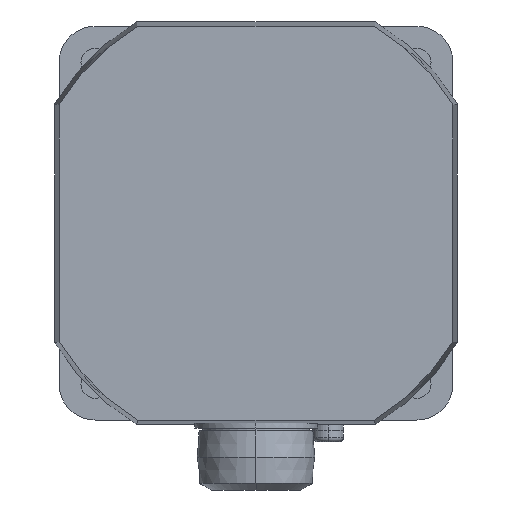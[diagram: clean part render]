
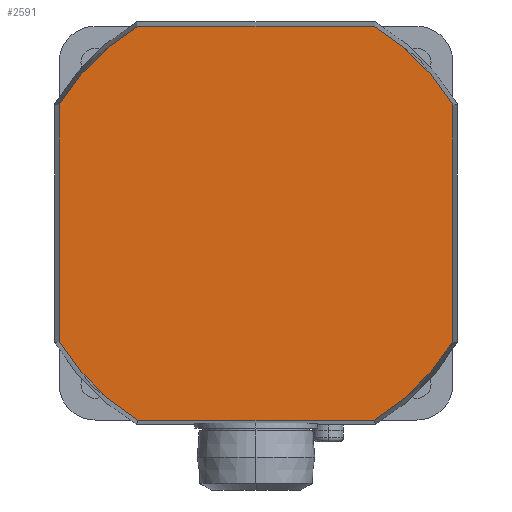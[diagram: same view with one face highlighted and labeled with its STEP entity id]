
A CAD part, left-side view. The second image highlights one B-rep face of the part: STEP entity #2591.
In plain terms, the highlighted planar face has unit normal (-1, 0, 0).
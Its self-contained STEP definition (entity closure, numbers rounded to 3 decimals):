
#2397=CARTESIAN_POINT('POINT35648',(-229.,-45.,
   9.042));
#2398=VERTEX_POINT('VERTEX35648',#2397);
#2407=CARTESIAN_POINT('POINT35650',(-229.,-45.,
   -45.042));
#2408=VERTEX_POINT('VERTEX35650',#2407);
#2409=CARTESIAN_POINT('POS58569',(-229.,-45.,
   -6.875));
#2410=DIRECTION('DIR88663',(0.,0.,1.));
#2411=VECTOR('VEC28475',#2410,1.);
#2412=LINE('STRAIGHT28475',#2409,#2411);
#2413=EDGE_CURVE('EDGE54265',#2408,#2398,#2412,.T.);
#2439=CARTESIAN_POINT('POINT35653',(-229.,-27.042,
   27.));
#2440=VERTEX_POINT('VERTEX35653',#2439);
#2447=CARTESIAN_POINT('POS58572',(-229.,0.,
   -18.));
#2448=DIRECTION('DIR88667',(1.,0.,0.));
#2449=DIRECTION('DIR88668',(0.,0.,-1.));
#2450=AXIS2_PLACEMENT_3D('AXIS30096',#2447,#2448,#2449);
#2451=CIRCLE('ELLIPSE13574',#2450,52.5);
#2452=EDGE_CURVE('EDGE54269',#2440,#2398,#2451,.T.);
#2470=CARTESIAN_POINT('POINT35654',(-229.,27.042,
   27.));
#2471=VERTEX_POINT('VERTEX35654',#2470);
#2480=CARTESIAN_POINT('POS58575',(-229.,0.,
   27.));
#2481=DIRECTION('DIR88673',(0.,1.,0.));
#2482=VECTOR('VEC28477',#2481,1.);
#2483=LINE('STRAIGHT28477',#2480,#2482);
#2484=EDGE_CURVE('EDGE54272',#2440,#2471,#2483,.T.);
#2503=CARTESIAN_POINT('POINT35657',(-229.,45.,
   9.042));
#2504=VERTEX_POINT('VERTEX35657',#2503);
#2511=EDGE_CURVE('EDGE54275',#2504,#2471,#2451,.T.);
#2519=CARTESIAN_POINT('POINT35658',(-229.,45.,
   -45.042));
#2520=VERTEX_POINT('VERTEX35658',#2519);
#2529=CARTESIAN_POINT('POS58578',(-229.,45.,
   -6.875));
#2530=DIRECTION('DIR88677',(0.,0.,-1.));
#2531=VECTOR('VEC28479',#2530,1.);
#2532=LINE('STRAIGHT28479',#2529,#2531);
#2533=EDGE_CURVE('EDGE54278',#2504,#2520,#2532,.T.);
#2555=CARTESIAN_POINT('POINT35661',(-229.,27.042,
   -63.));
#2556=VERTEX_POINT('VERTEX35661',#2555);
#2563=EDGE_CURVE('EDGE54282',#2556,#2520,#2451,.T.);
#2568=ORIENTED_EDGE('COEDGE108546',*,*,#2533,.T.);
#2569=ORIENTED_EDGE('COEDGE108547',*,*,#2563,.F.);
#2570=CARTESIAN_POINT('POINT35662',(-229.,-27.042,
   -63.));
#2571=VERTEX_POINT('VERTEX35662',#2570);
#2572=CARTESIAN_POINT('POS58581',(-229.,0.,
   -63.));
#2573=DIRECTION('DIR88681',(0.,-1.,0.));
#2574=VECTOR('VEC28481',#2573,1.);
#2575=LINE('STRAIGHT28481',#2572,#2574);
#2576=EDGE_CURVE('EDGE54283',#2556,#2571,#2575,.T.);
#2577=ORIENTED_EDGE('COEDGE108548',*,*,#2576,.T.);
#2578=EDGE_CURVE('EDGE54284',#2408,#2571,#2451,.T.);
#2579=ORIENTED_EDGE('COEDGE108549',*,*,#2578,.F.);
#2580=ORIENTED_EDGE('COEDGE108550',*,*,#2413,.T.);
#2581=ORIENTED_EDGE('COEDGE108551',*,*,#2452,.F.);
#2582=ORIENTED_EDGE('COEDGE108552',*,*,#2484,.T.);
#2583=ORIENTED_EDGE('COEDGE108553',*,*,#2511,.F.);
#2584=EDGE_LOOP('NONE',(#2568,#2569,#2577,#2579,#2580,#2581,#2582,#2583)
   );
#2585=FACE_BOUND('LOOP1',#2584,.T.);
#2586=CARTESIAN_POINT('POS58582',(-229.,0.,
   4.25));
#2587=DIRECTION('DIR88682',(-1.,0.,0.));
#2588=DIRECTION('DIR88683',(0.,1.,0.));
#2589=AXIS2_PLACEMENT_3D('AXIS30101',#2586,#2587,#2588);
#2590=PLANE('PLANE9863',#2589);
#2591=ADVANCED_FACE('FACE22388',(#2585),#2590,.T.);
